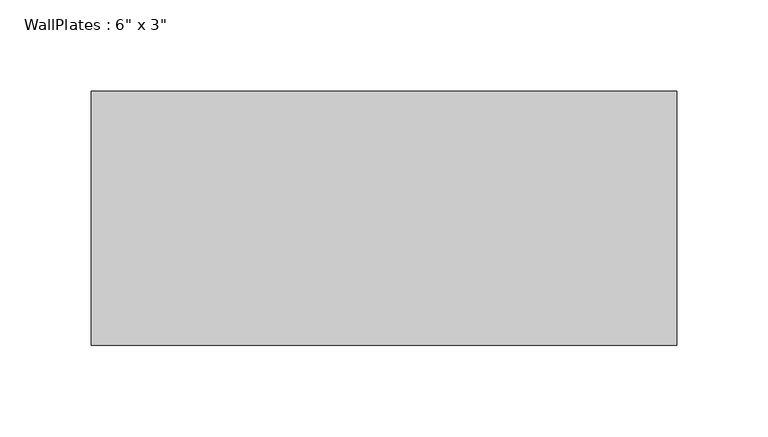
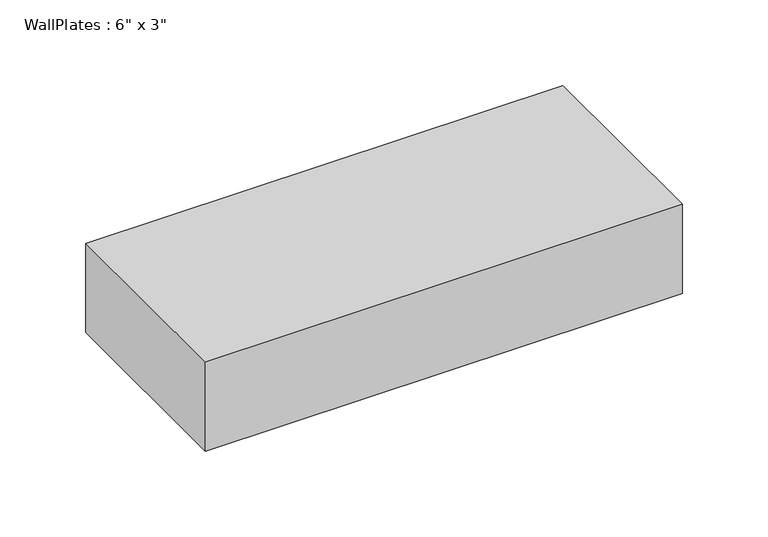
"""IFC4 building model written with IfcOpenShell, lengths in millimetres: beam geometry."""

from ifc_helpers import new_model, si_unit, frame, origin, place, context, project, spatial, polyline, outline, extrude, source, transform, mapped, element, save


def beam_50f049cc(model_context):
    return source(origin(), model_context, "Body", "SweptSolid", [
        extrude(outline(polyline([(-160.8666667, -69.85), (-160.8666667, 69.85), (160.8666667, 69.85), (160.8666667, -69.85), (-160.8666667, -69.85)])), frame((0.0, 0.0, -31.75), z_axis=(0.0, 0.0, 1.0), x_axis=(1.0, 0.0, 0.0)), (0.0, 0.0, 1.0), 63.5),
    ])


if __name__ == "__main__":
    model = new_model("IFC4")
    model_context = context("Model", 3, world=origin())
    ifc_project = project(units=[si_unit("LENGTHUNIT", "METRE", prefix="MILLI")], contexts=[model_context])
    site = spatial("IfcSite", under=ifc_project)
    building = spatial("IfcBuilding", under=site)
    placement = place(None, origin())
    beam_shape = beam_50f049cc(model_context)
    element("IfcBeam", 1, ObjectType="WallPlates : 6\" x 3\"", at=placement, inside=building, context=model_context, shape_type="MappedRepresentation", body=[
        mapped(beam_shape, transform((0.0, 0.0, 0.0), x_axis=(1.0, 0.0, 0.0), y_axis=(0.0, 1.0, 0.0), z_axis=(0.0, 0.0, 1.0))),
    ])
    save(model, "model.ifc")
